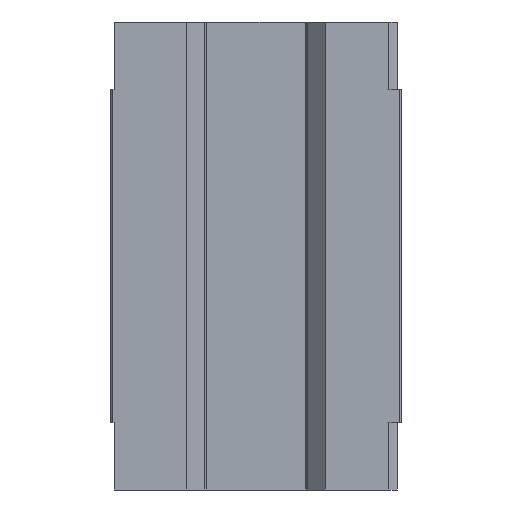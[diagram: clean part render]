
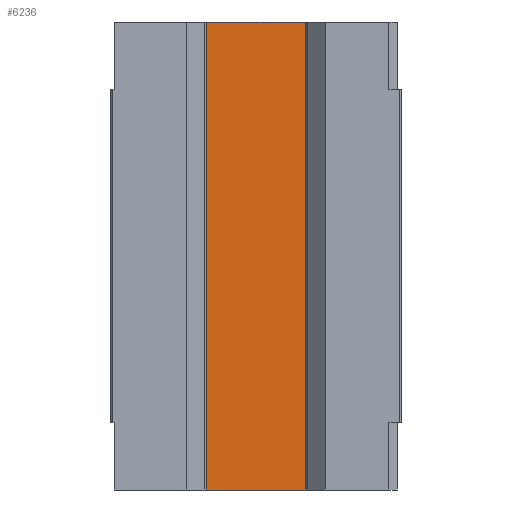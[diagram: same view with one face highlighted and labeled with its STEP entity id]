
A CAD part, front view. The second image highlights one B-rep face of the part: STEP entity #6236.
In plain terms, the highlighted planar face has unit normal (0, -1, 0).
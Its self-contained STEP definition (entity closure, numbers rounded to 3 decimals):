
#596 = EDGE_CURVE ( 'NONE', #2191, #9479, #4373, .T. ) ;
#1589 = DIRECTION ( 'NONE',  ( 0., 0., 1. ) ) ;
#2191 = VERTEX_POINT ( 'NONE', #3145 ) ;
#3145 = CARTESIAN_POINT ( 'NONE',  ( -13.281, 0., -56.2 ) ) ;
#3660 = DIRECTION ( 'NONE',  ( 0., 0., 1. ) ) ;
#3674 = DIRECTION ( 'NONE',  ( 0., 1., 0. ) ) ;
#3708 = PLANE ( 'NONE',  #8413 ) ;
#3721 = CARTESIAN_POINT ( 'NONE',  ( -13.281, 0., 56.2 ) ) ;
#3833 = CARTESIAN_POINT ( 'NONE',  ( -13.62, 0., 56.2 ) ) ;
#4184 = VECTOR ( 'NONE', #4751, 1000. ) ;
#4373 = LINE ( 'NONE', #4775, #4184 ) ;
#4751 = DIRECTION ( 'NONE',  ( 1., 0., 0. ) ) ;
#4775 = CARTESIAN_POINT ( 'NONE',  ( -13.62, 0., -56.2 ) ) ;
#5132 = VERTEX_POINT ( 'NONE', #3721 ) ;
#5462 = LINE ( 'NONE', #7441, #5506 ) ;
#5506 = VECTOR ( 'NONE', #8146, 1000. ) ;
#5656 = EDGE_CURVE ( 'NONE', #5132, #2191, #9075, .T. ) ;
#5728 = ORIENTED_EDGE ( 'NONE', *, *, #596, .T. ) ;
#6236 = ADVANCED_FACE ( 'NONE', ( #7247 ), #3708, .F. ) ;
#6381 = EDGE_LOOP ( 'NONE', ( #6944, #8600, #5728, #9612 ) ) ;
#6446 = CARTESIAN_POINT ( 'NONE',  ( 13.271, 0., -56.2 ) ) ;
#6878 = CARTESIAN_POINT ( 'NONE',  ( 13.271, 0., 56.2 ) ) ;
#6944 = ORIENTED_EDGE ( 'NONE', *, *, #8377, .F. ) ;
#7159 = VERTEX_POINT ( 'NONE', #8432 ) ;
#7247 = FACE_OUTER_BOUND ( 'NONE', #6381, .T. ) ;
#7441 = CARTESIAN_POINT ( 'NONE',  ( 0., 0., 56.2 ) ) ;
#7790 = LINE ( 'NONE', #6878, #8798 ) ;
#8140 = EDGE_CURVE ( 'NONE', #9479, #7159, #7790, .T. ) ;
#8146 = DIRECTION ( 'NONE',  ( 1., 0., 0. ) ) ;
#8377 = EDGE_CURVE ( 'NONE', #5132, #7159, #5462, .T. ) ;
#8413 = AXIS2_PLACEMENT_3D ( 'NONE', #3833, #3674, #3660 ) ;
#8432 = CARTESIAN_POINT ( 'NONE',  ( 13.271, 0., 56.2 ) ) ;
#8600 = ORIENTED_EDGE ( 'NONE', *, *, #5656, .T. ) ;
#8798 = VECTOR ( 'NONE', #1589, 1000. ) ;
#8954 = DIRECTION ( 'NONE',  ( 0., 0., -1. ) ) ;
#8980 = VECTOR ( 'NONE', #8954, 1000. ) ;
#8991 = CARTESIAN_POINT ( 'NONE',  ( -13.281, 0., -56.2 ) ) ;
#9075 = LINE ( 'NONE', #8991, #8980 ) ;
#9479 = VERTEX_POINT ( 'NONE', #6446 ) ;
#9612 = ORIENTED_EDGE ( 'NONE', *, *, #8140, .T. ) ;
